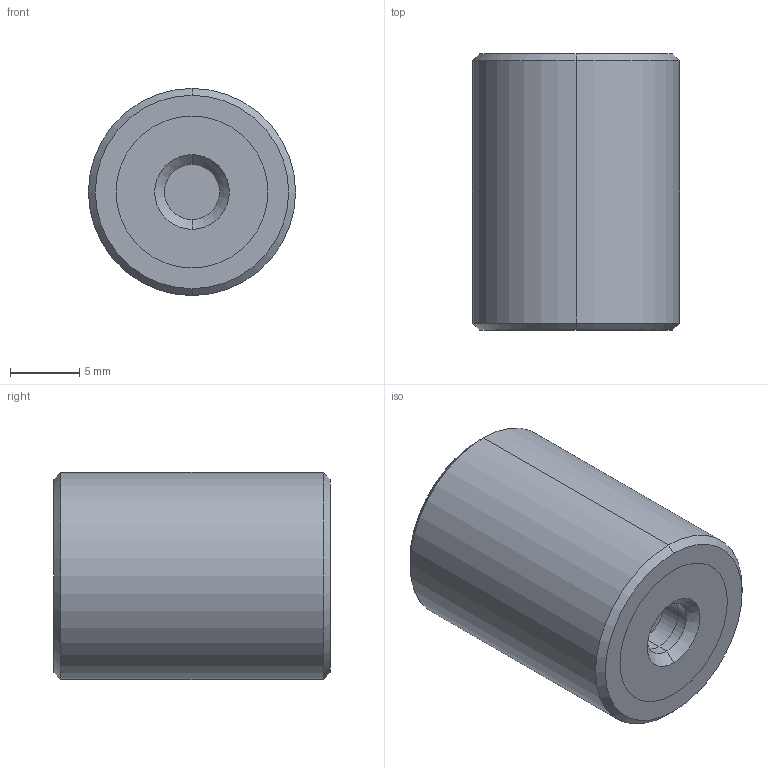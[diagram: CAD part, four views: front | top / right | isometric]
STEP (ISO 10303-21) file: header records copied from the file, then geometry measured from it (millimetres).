
FILE_DESCRIPTION (( 'STEP AP203' ), '1' );
FILE_NAME ('61080.W0152.step', '2018-07-16T20:41:44', ( '' ), ( '' ), 'SwSTEP 2.0', 'SolidWorks 2017', '' );
FILE_SCHEMA (( 'CONFIG_CONTROL_DESIGN' ));
Length unit declared in the file: millimetre
Products named in the file (4): Part1_61080.W0152; Part2_61080.W0152; 61080.W0152; Part3_61080.W0152
Assembly tree (3 placements, depth 2):
  61080.W0152
    Part1_61080.W0152
    Part2_61080.W0152
    Part3_61080.W0152
Bounding box: 15 x 20 x 15 mm (x, y, z)
Volume: 3440.5 mm3; surface area: 1871.2 mm2
Topology: 3 solids, 3 shells, 36 faces, 70 edges, 44 vertices
Faces by surface type: cylinder 18, plane 10, cone 8
Entity records: 1356 total; most frequent: DIRECTION 198, CARTESIAN_POINT 156, ORIENTED_EDGE 140, AXIS2_PLACEMENT_3D 86, EDGE_CURVE 70, CIRCLE 44, EDGE_LOOP 44, VERTEX_POINT 44
